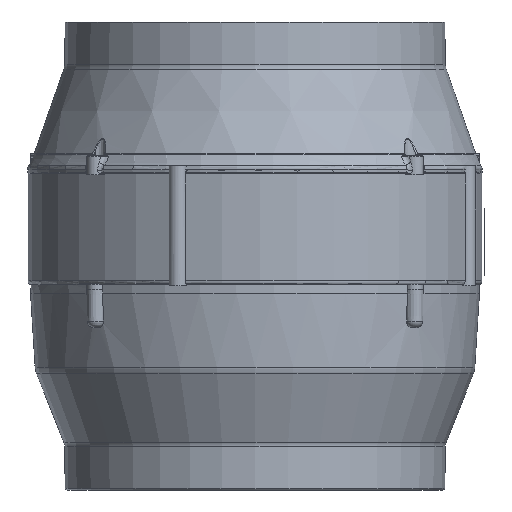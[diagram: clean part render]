
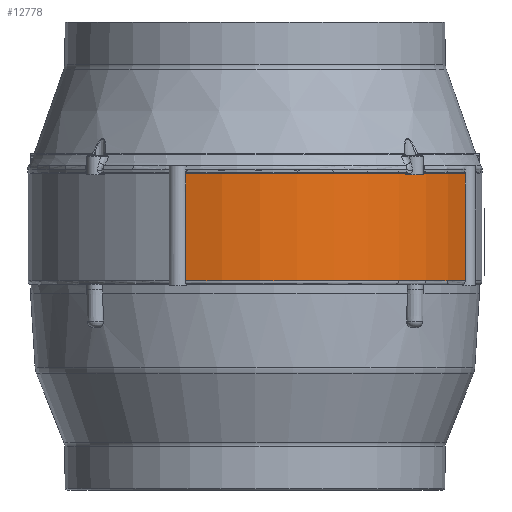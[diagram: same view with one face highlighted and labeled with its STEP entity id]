
A CAD part, front view. The second image highlights one B-rep face of the part: STEP entity #12778.
In plain terms, the highlighted cylindrical face has radius 118.8 mm (diameter 237.6 mm), a partial arc.
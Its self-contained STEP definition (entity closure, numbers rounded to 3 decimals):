
#1181 = VERTEX_POINT ( 'NONE', #6414 ) ;
#4087 = CARTESIAN_POINT ( 'NONE',  ( 0., 0., 61. ) ) ;
#4089 = DIRECTION ( 'NONE',  ( 0., 0., 1. ) ) ;
#4090 = DIRECTION ( 'NONE',  ( 1., 0., 0. ) ) ;
#4094 = CARTESIAN_POINT ( 'NONE',  ( 0., 0., 4.5 ) ) ;
#4096 = DIRECTION ( 'NONE',  ( 0., 0., 1. ) ) ;
#4098 = DIRECTION ( 'NONE',  ( 1., 0., 0. ) ) ;
#6414 = CARTESIAN_POINT ( 'NONE',  ( 109.99, -44.896, 4.5 ) ) ;
#6612 = CARTESIAN_POINT ( 'NONE',  ( -36.308, -113.116, 33.4 ) ) ;
#6613 = DIRECTION ( 'NONE',  ( 0., 0., -1. ) ) ;
#6715 = CARTESIAN_POINT ( 'NONE',  ( 109.99, -44.896, 33.4 ) ) ;
#6716 = DIRECTION ( 'NONE',  ( 0., 0., 1. ) ) ;
#7095 = CIRCLE ( 'NONE', #17098, 118.8 ) ;
#7099 = CIRCLE ( 'NONE', #17099, 118.8 ) ;
#7208 = LINE ( 'NONE', #6612, #7210 ) ;
#7210 = VECTOR ( 'NONE', #6613, 1000. ) ;
#7243 = LINE ( 'NONE', #6715, #7245 ) ;
#7245 = VECTOR ( 'NONE', #6716, 1000. ) ;
#9517 = VERTEX_POINT ( 'NONE', #12382 ) ;
#9520 = VERTEX_POINT ( 'NONE', #12385 ) ;
#10257 = EDGE_LOOP ( 'NONE', ( #11174, #11175, #11176, #11177 ) ) ;
#11174 = ORIENTED_EDGE ( 'NONE', *, *, #17888, .T. ) ;
#11175 = ORIENTED_EDGE ( 'NONE', *, *, #17967, .T. ) ;
#11176 = ORIENTED_EDGE ( 'NONE', *, *, #17887, .F. ) ;
#11177 = ORIENTED_EDGE ( 'NONE', *, *, #17942, .T. ) ;
#11816 = FACE_OUTER_BOUND ( 'NONE', #10257, .T. ) ;
#11817 = CYLINDRICAL_SURFACE ( 'NONE', #17653, 118.8 ) ;
#12382 = CARTESIAN_POINT ( 'NONE',  ( -36.308, -113.116, 61. ) ) ;
#12385 = CARTESIAN_POINT ( 'NONE',  ( -36.308, -113.116, 4.5 ) ) ;
#12778 = ADVANCED_FACE ( 'NONE', ( #11816 ), #11817, .T. ) ;
#14351 = DIRECTION ( 'NONE',  ( 1., 0., 0. ) ) ;
#14352 = DIRECTION ( 'NONE',  ( 0., 0., 1. ) ) ;
#14388 = CARTESIAN_POINT ( 'NONE',  ( 0., 0., 0. ) ) ;
#15468 = VERTEX_POINT ( 'NONE', #21274 ) ;
#17098 = AXIS2_PLACEMENT_3D ( 'NONE', #4087, #4089, #4090 ) ;
#17099 = AXIS2_PLACEMENT_3D ( 'NONE', #4094, #4096, #4098 ) ;
#17653 = AXIS2_PLACEMENT_3D ( 'NONE', #14388, #14352, #14351 ) ;
#17887 = EDGE_CURVE ( 'NONE', #9517, #15468, #7095, .T. ) ;
#17888 = EDGE_CURVE ( 'NONE', #9520, #1181, #7099, .T. ) ;
#17942 = EDGE_CURVE ( 'NONE', #9517, #9520, #7208, .T. ) ;
#17967 = EDGE_CURVE ( 'NONE', #1181, #15468, #7243, .T. ) ;
#21274 = CARTESIAN_POINT ( 'NONE',  ( 109.99, -44.896, 61. ) ) ;
